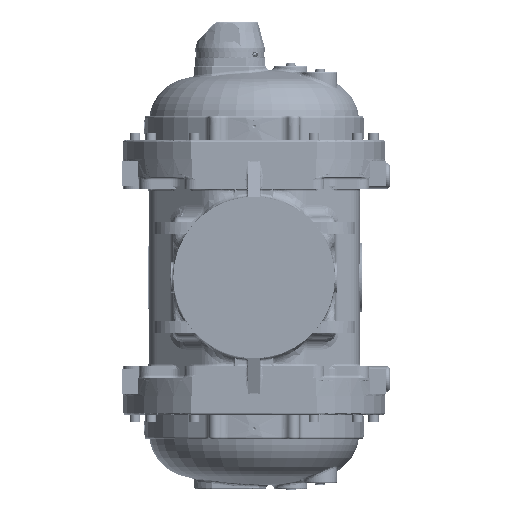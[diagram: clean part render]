
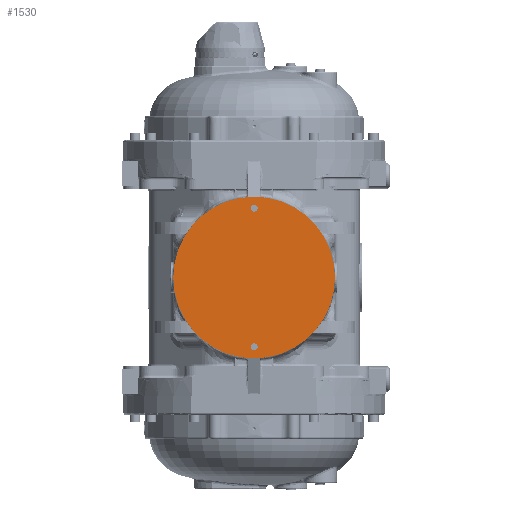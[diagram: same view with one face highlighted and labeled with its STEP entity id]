
A CAD part, left-side view. The second image highlights one B-rep face of the part: STEP entity #1530.
In plain terms, the highlighted planar face has unit normal (-1, 0, 0) by its records, which use the part's own axes.
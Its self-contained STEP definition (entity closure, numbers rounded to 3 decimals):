
#1530=ADVANCED_FACE('',(#30995,#30997,#30999,#31001,#31003,#31005,#31007,#31009,
#31011,#31013,#31015,#31017),#31019,.F.);
#30995=FACE_BOUND('',#30996,.T.);
#30996=EDGE_LOOP('',(#80128));
#30997=FACE_BOUND('',#30998,.T.);
#30998=EDGE_LOOP('',(#80129,#80130));
#30999=FACE_BOUND('',#31000,.T.);
#31000=EDGE_LOOP('',(#80131,#80132));
#31001=FACE_BOUND('',#31002,.T.);
#31002=EDGE_LOOP('',(#80133,#80134));
#31003=FACE_BOUND('',#31004,.T.);
#31004=EDGE_LOOP('',(#80135,#80136));
#31005=FACE_BOUND('',#31006,.T.);
#31006=EDGE_LOOP('',(#80137,#80138));
#31007=FACE_BOUND('',#31008,.T.);
#31008=EDGE_LOOP('',(#80139,#80140));
#31009=FACE_BOUND('',#31010,.T.);
#31010=EDGE_LOOP('',(#80141,#80142));
#31011=FACE_BOUND('',#31012,.T.);
#31012=EDGE_LOOP('',(#80143,#80144));
#31013=FACE_BOUND('',#31014,.T.);
#31014=EDGE_LOOP('',(#80145,#80146));
#31015=FACE_BOUND('',#31016,.T.);
#31016=EDGE_LOOP('',(#80147));
#31017=FACE_BOUND('',#31018,.T.);
#31018=EDGE_LOOP('',(#80148));
#31019=PLANE('',#31020);
#31020=AXIS2_PLACEMENT_3D('',#31021,#31022,#31023);
#31021=CARTESIAN_POINT('',(-225.,0.,0.));
#31022=DIRECTION('',(1.,0.,0.));
#31023=DIRECTION('',(0.,0.,-1.));
#80128=ORIENTED_EDGE('',*,*,#93643,.F.);
#80129=ORIENTED_EDGE('',*,*,#93932,.T.);
#80130=ORIENTED_EDGE('',*,*,#93933,.F.);
#80131=ORIENTED_EDGE('',*,*,#93934,.F.);
#80132=ORIENTED_EDGE('',*,*,#93935,.F.);
#80133=ORIENTED_EDGE('',*,*,#93936,.F.);
#80134=ORIENTED_EDGE('',*,*,#93937,.F.);
#80135=ORIENTED_EDGE('',*,*,#93938,.F.);
#80136=ORIENTED_EDGE('',*,*,#93939,.F.);
#80137=ORIENTED_EDGE('',*,*,#93940,.F.);
#80138=ORIENTED_EDGE('',*,*,#93941,.F.);
#80139=ORIENTED_EDGE('',*,*,#93942,.F.);
#80140=ORIENTED_EDGE('',*,*,#93943,.F.);
#80141=ORIENTED_EDGE('',*,*,#93944,.F.);
#80142=ORIENTED_EDGE('',*,*,#93945,.F.);
#80143=ORIENTED_EDGE('',*,*,#93946,.F.);
#80144=ORIENTED_EDGE('',*,*,#93947,.F.);
#80145=ORIENTED_EDGE('',*,*,#93948,.F.);
#80146=ORIENTED_EDGE('',*,*,#93949,.F.);
#80147=ORIENTED_EDGE('',*,*,#93950,.F.);
#80148=ORIENTED_EDGE('',*,*,#93951,.F.);
#93643=EDGE_CURVE('',#100967,#100967,#100968,.T.);
#93932=EDGE_CURVE('',#101473,#101473,#101474,.T.);
#93933=EDGE_CURVE('',#101473,#101473,#101475,.F.);
#93934=EDGE_CURVE('',#101476,#101476,#101477,.T.);
#93935=EDGE_CURVE('',#101476,#101476,#101478,.T.);
#93936=EDGE_CURVE('',#101479,#101479,#101480,.T.);
#93937=EDGE_CURVE('',#101479,#101479,#101481,.T.);
#93938=EDGE_CURVE('',#101482,#101482,#101483,.T.);
#93939=EDGE_CURVE('',#101482,#101482,#101484,.T.);
#93940=EDGE_CURVE('',#101485,#101485,#101486,.T.);
#93941=EDGE_CURVE('',#101485,#101485,#101487,.T.);
#93942=EDGE_CURVE('',#101488,#101488,#101489,.T.);
#93943=EDGE_CURVE('',#101488,#101488,#101490,.T.);
#93944=EDGE_CURVE('',#101491,#101491,#101492,.T.);
#93945=EDGE_CURVE('',#101491,#101491,#101493,.T.);
#93946=EDGE_CURVE('',#101494,#101494,#101495,.T.);
#93947=EDGE_CURVE('',#101494,#101494,#101496,.T.);
#93948=EDGE_CURVE('',#101497,#101497,#101498,.T.);
#93949=EDGE_CURVE('',#101497,#101497,#101499,.T.);
#93950=EDGE_CURVE('',#101500,#101500,#101501,.T.);
#93951=EDGE_CURVE('',#101502,#101502,#101503,.T.);
#100967=VERTEX_POINT('',#116178);
#100968=CIRCLE('',#116179,140.);
#101473=VERTEX_POINT('',#118848);
#101474=CIRCLE('',#118849,76.);
#101475=CIRCLE('',#118853,76.);
#101476=VERTEX_POINT('',#118857);
#101477=CIRCLE('',#118858,8.75);
#101478=CIRCLE('',#118862,8.75);
#101479=VERTEX_POINT('',#118866);
#101480=CIRCLE('',#118867,8.75);
#101481=CIRCLE('',#118871,8.75);
#101482=VERTEX_POINT('',#118875);
#101483=CIRCLE('',#118876,8.75);
#101484=CIRCLE('',#118880,8.75);
#101485=VERTEX_POINT('',#118884);
#101486=CIRCLE('',#118885,8.75);
#101487=CIRCLE('',#118889,8.75);
#101488=VERTEX_POINT('',#118893);
#101489=CIRCLE('',#118894,8.75);
#101490=CIRCLE('',#118898,8.75);
#101491=VERTEX_POINT('',#118902);
#101492=CIRCLE('',#118903,8.75);
#101493=CIRCLE('',#118907,8.75);
#101494=VERTEX_POINT('',#118911);
#101495=CIRCLE('',#118912,8.75);
#101496=CIRCLE('',#118916,8.75);
#101497=VERTEX_POINT('',#118920);
#101498=CIRCLE('',#118921,8.75);
#101499=CIRCLE('',#118925,8.75);
#101500=VERTEX_POINT('',#118929);
#101501=CIRCLE('',#118930,6.);
#101502=VERTEX_POINT('',#118934);
#101503=CIRCLE('',#118935,6.);
#116178=CARTESIAN_POINT('',(-225.,0.,-140.));
#116179=AXIS2_PLACEMENT_3D('',#116180,#116181,#116182);
#116180=CARTESIAN_POINT('',(-225.,0.,0.));
#116181=DIRECTION('',(1.,0.,0.));
#116182=DIRECTION('',(0.,0.,-1.));
#118848=CARTESIAN_POINT('',(-225.,0.,-76.));
#118849=AXIS2_PLACEMENT_3D('',#118850,#118851,#118852);
#118850=CARTESIAN_POINT('',(-225.,0.,0.));
#118851=DIRECTION('',(1.,0.,0.));
#118852=DIRECTION('',(0.,0.,1.));
#118853=AXIS2_PLACEMENT_3D('',#118854,#118855,#118856);
#118854=CARTESIAN_POINT('',(-225.,0.,0.));
#118855=DIRECTION('',(1.,0.,0.));
#118856=DIRECTION('',(0.,0.,-1.));
#118857=CARTESIAN_POINT('',(-225.,45.922,119.616));
#118858=AXIS2_PLACEMENT_3D('',#118859,#118860,#118861);
#118859=CARTESIAN_POINT('',(-225.,45.922,110.866));
#118860=DIRECTION('',(-1.,0.,0.));
#118861=DIRECTION('',(0.,0.,-1.));
#118862=AXIS2_PLACEMENT_3D('',#118863,#118864,#118865);
#118863=CARTESIAN_POINT('',(-225.,45.922,110.866));
#118864=DIRECTION('',(-1.,0.,0.));
#118865=DIRECTION('',(0.,0.,1.));
#118866=CARTESIAN_POINT('',(-225.,45.922,-102.116));
#118867=AXIS2_PLACEMENT_3D('',#118868,#118869,#118870);
#118868=CARTESIAN_POINT('',(-225.,45.922,-110.866));
#118869=DIRECTION('',(-1.,0.,0.));
#118870=DIRECTION('',(0.,0.,-1.));
#118871=AXIS2_PLACEMENT_3D('',#118872,#118873,#118874);
#118872=CARTESIAN_POINT('',(-225.,45.922,-110.866));
#118873=DIRECTION('',(-1.,0.,0.));
#118874=DIRECTION('',(0.,0.,1.));
#118875=CARTESIAN_POINT('',(-225.,110.866,-37.172));
#118876=AXIS2_PLACEMENT_3D('',#118877,#118878,#118879);
#118877=CARTESIAN_POINT('',(-225.,110.866,-45.922));
#118878=DIRECTION('',(-1.,0.,0.));
#118879=DIRECTION('',(0.,0.,-1.));
#118880=AXIS2_PLACEMENT_3D('',#118881,#118882,#118883);
#118881=CARTESIAN_POINT('',(-225.,110.866,-45.922));
#118882=DIRECTION('',(-1.,0.,0.));
#118883=DIRECTION('',(0.,0.,1.));
#118884=CARTESIAN_POINT('',(-225.,110.866,54.672));
#118885=AXIS2_PLACEMENT_3D('',#118886,#118887,#118888);
#118886=CARTESIAN_POINT('',(-225.,110.866,45.922));
#118887=DIRECTION('',(-1.,0.,0.));
#118888=DIRECTION('',(0.,0.,-1.));
#118889=AXIS2_PLACEMENT_3D('',#118890,#118891,#118892);
#118890=CARTESIAN_POINT('',(-225.,110.866,45.922));
#118891=DIRECTION('',(-1.,0.,0.));
#118892=DIRECTION('',(0.,0.,1.));
#118893=CARTESIAN_POINT('',(-225.,-45.922,119.616));
#118894=AXIS2_PLACEMENT_3D('',#118895,#118896,#118897);
#118895=CARTESIAN_POINT('',(-225.,-45.922,110.866));
#118896=DIRECTION('',(-1.,0.,0.));
#118897=DIRECTION('',(0.,0.,-1.));
#118898=AXIS2_PLACEMENT_3D('',#118899,#118900,#118901);
#118899=CARTESIAN_POINT('',(-225.,-45.922,110.866));
#118900=DIRECTION('',(-1.,0.,0.));
#118901=DIRECTION('',(0.,0.,1.));
#118902=CARTESIAN_POINT('',(-225.,-110.866,54.672));
#118903=AXIS2_PLACEMENT_3D('',#118904,#118905,#118906);
#118904=CARTESIAN_POINT('',(-225.,-110.866,45.922));
#118905=DIRECTION('',(-1.,0.,0.));
#118906=DIRECTION('',(0.,0.,-1.));
#118907=AXIS2_PLACEMENT_3D('',#118908,#118909,#118910);
#118908=CARTESIAN_POINT('',(-225.,-110.866,45.922));
#118909=DIRECTION('',(-1.,0.,0.));
#118910=DIRECTION('',(0.,0.,1.));
#118911=CARTESIAN_POINT('',(-225.,-110.866,-37.172));
#118912=AXIS2_PLACEMENT_3D('',#118913,#118914,#118915);
#118913=CARTESIAN_POINT('',(-225.,-110.866,-45.922));
#118914=DIRECTION('',(-1.,0.,0.));
#118915=DIRECTION('',(0.,0.,-1.));
#118916=AXIS2_PLACEMENT_3D('',#118917,#118918,#118919);
#118917=CARTESIAN_POINT('',(-225.,-110.866,-45.922));
#118918=DIRECTION('',(-1.,0.,0.));
#118919=DIRECTION('',(0.,0.,1.));
#118920=CARTESIAN_POINT('',(-225.,-45.922,-102.116));
#118921=AXIS2_PLACEMENT_3D('',#118922,#118923,#118924);
#118922=CARTESIAN_POINT('',(-225.,-45.922,-110.866));
#118923=DIRECTION('',(-1.,0.,0.));
#118924=DIRECTION('',(0.,0.,-1.));
#118925=AXIS2_PLACEMENT_3D('',#118926,#118927,#118928);
#118926=CARTESIAN_POINT('',(-225.,-45.922,-110.866));
#118927=DIRECTION('',(-1.,0.,0.));
#118928=DIRECTION('',(0.,0.,1.));
#118929=CARTESIAN_POINT('',(-225.,0.,-114.));
#118930=AXIS2_PLACEMENT_3D('',#118931,#118932,#118933);
#118931=CARTESIAN_POINT('',(-225.,0.,-120.));
#118932=DIRECTION('',(-1.,0.,0.));
#118933=DIRECTION('',(0.,0.,1.));
#118934=CARTESIAN_POINT('',(-225.,0.,126.));
#118935=AXIS2_PLACEMENT_3D('',#118936,#118937,#118938);
#118936=CARTESIAN_POINT('',(-225.,0.,120.));
#118937=DIRECTION('',(-1.,0.,0.));
#118938=DIRECTION('',(0.,0.,1.));
